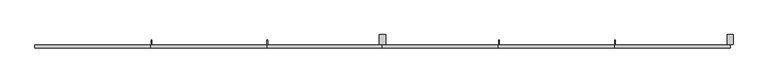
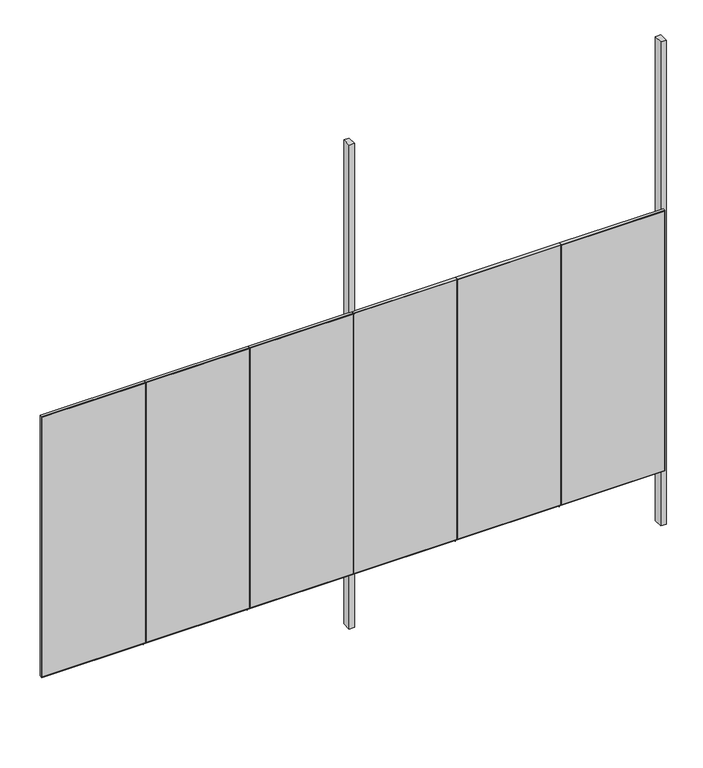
"""IFC4 building model written with IfcOpenShell, lengths in millimetres: furniture geometry, H105 Reja 6 módulos : H105.2 Reja 6 módulos 690x315 CANCHA."""

from ifc_helpers import new_model, si_unit, frame, origin, place, context, project, spatial, polyline, outline, extrude, source, transform, mapped, element, save


def furniture_af94d752(model_context):
    return source(origin(), model_context, "Body", "SweptSolid", [
        extrude(outline(polyline([(4674.7003264, -468.0), (4674.7003264, -568.0), (4614.7003264, -568.0), (4614.7003264, -468.0), (4674.7003264, -468.0)])), frame((0.0, 0.0, -600.0), z_axis=(0.0, 0.0, 1.0), x_axis=(1.0, 0.0, 0.0)), (0.0, 0.0, 1.0), 5660.0),
        extrude(outline(polyline([(1224.7003264, -468.0), (1224.7003264, -568.0), (1164.7003264, -568.0), (1164.7003264, -468.0), (1224.7003264, -468.0)])), frame((0.0, 0.0, -600.0), z_axis=(0.0, 0.0, 1.0), x_axis=(1.0, 0.0, 0.0)), (0.0, 0.0, 1.0), 5660.0),
        extrude(outline(polyline([(3100.0, 3494.7003264), (3100.0, 2344.7003264), (50.0, 2344.7003264), (50.0, 3494.7003264), (3100.0, 3494.7003264)]), holes=[polyline([(3093.0, 3491.2003264), (57.0, 3491.2003264), (57.0, 2348.2003264), (3093.0, 2348.2003264), (3093.0, 3491.2003264)])]), frame((0.0, -600.0, 0.0), z_axis=(0.0, 1.0, 0.0), x_axis=(0.0, 0.0, 1.0)), (0.0, 0.0, 1.0), 32.0),
        extrude(outline(polyline([(3491.2003264, -600.0), (2348.2003264, -600.0), (2348.2003264, -597.0), (3491.2003264, -597.0), (3491.2003264, -600.0)])), frame((0.0, 0.0, 57.0), z_axis=(0.0, 0.0, 1.0), x_axis=(1.0, 0.0, 0.0)), (0.0, 0.0, 1.0), 3036.0),
        extrude(outline(polyline([(3100.0, 2344.7003264), (3100.0, 1194.7003264), (50.0, 1194.7003264), (50.0, 2344.7003264), (3100.0, 2344.7003264)]), holes=[polyline([(3093.0, 2341.2003264), (57.0, 2341.2003264), (57.0, 1198.2003264), (3093.0, 1198.2003264), (3093.0, 2341.2003264)])]), frame((0.0, -600.0, 0.0), z_axis=(0.0, 1.0, 0.0), x_axis=(0.0, 0.0, 1.0)), (0.0, 0.0, 1.0), 32.0),
        extrude(outline(polyline([(2341.2003264, -600.0), (1198.2003264, -600.0), (1198.2003264, -597.0), (2341.2003264, -597.0), (2341.2003264, -600.0)])), frame((0.0, 0.0, 57.0), z_axis=(0.0, 0.0, 1.0), x_axis=(1.0, 0.0, 0.0)), (0.0, 0.0, 1.0), 3036.0),
        extrude(outline(polyline([(3100.0, 44.7003264), (3100.0, -1105.2996736), (50.0, -1105.2996736), (50.0, 44.7003264), (3100.0, 44.7003264)]), holes=[polyline([(3093.0, 41.2003264), (57.0, 41.2003264), (57.0, -1101.7996736), (3093.0, -1101.7996736), (3093.0, 41.2003264)])]), frame((0.0, -600.0, 0.0), z_axis=(0.0, 1.0, 0.0), x_axis=(0.0, 0.0, 1.0)), (0.0, 0.0, 1.0), 32.0),
        extrude(outline(polyline([(4637.7003264, -600.0), (3498.2003264, -600.0), (3498.2003264, -597.0), (4637.7003264, -597.0), (4637.7003264, -600.0)])), frame((0.0, 0.0, 57.0), z_axis=(0.0, 0.0, 1.0), x_axis=(1.0, 0.0, 0.0)), (0.0, 0.0, 1.0), 3036.0),
        extrude(outline(polyline([(3100.0, 4644.7003264), (3100.0, 3494.7003264), (50.0, 3494.7003264), (50.0, 4644.7003264), (3100.0, 4644.7003264)]), holes=[polyline([(3093.0, 4637.7003264), (57.0, 4637.7003264), (57.0, 3498.2003264), (3093.0, 3498.2003264), (3093.0, 4637.7003264)])]), frame((0.0, -600.0, 0.0), z_axis=(0.0, 1.0, 0.0), x_axis=(0.0, 0.0, 1.0)), (0.0, 0.0, 1.0), 32.0),
        extrude(outline(polyline([(1191.2003264, -600.0), (48.2003264, -600.0), (48.2003264, -597.0), (1191.2003264, -597.0), (1191.2003264, -600.0)])), frame((0.0, 0.0, 57.0), z_axis=(0.0, 0.0, 1.0), x_axis=(1.0, 0.0, 0.0)), (0.0, 0.0, 1.0), 3036.0),
        extrude(outline(polyline([(3100.0, 1194.7003264), (3100.0, 44.7003264), (50.0, 44.7003264), (50.0, 1194.7003264), (3100.0, 1194.7003264)]), holes=[polyline([(3093.0, 1191.2003264), (57.0, 1191.2003264), (57.0, 48.2003264), (3093.0, 48.2003264), (3093.0, 1191.2003264)])]), frame((0.0, -600.0, 0.0), z_axis=(0.0, 1.0, 0.0), x_axis=(0.0, 0.0, 1.0)), (0.0, 0.0, 1.0), 32.0),
        extrude(outline(polyline([(41.2003264, -600.0), (-1101.7996736, -600.0), (-1101.7996736, -597.0), (41.2003264, -597.0), (41.2003264, -600.0)])), frame((0.0, 0.0, 57.0), z_axis=(0.0, 0.0, 1.0), x_axis=(1.0, 0.0, 0.0)), (0.0, 0.0, 1.0), 3036.0),
        extrude(outline(polyline([(-1108.7996736, -600.0), (-2248.2996736, -600.0), (-2248.2996736, -597.0), (-1108.7996736, -597.0), (-1108.7996736, -600.0)])), frame((0.0, 0.0, 57.0), z_axis=(0.0, 0.0, 1.0), x_axis=(1.0, 0.0, 0.0)), (0.0, 0.0, 1.0), 3036.0),
        extrude(outline(polyline([(3100.0, -1105.2996736), (3100.0, -2255.2996736), (50.0, -2255.2996736), (50.0, -1105.2996736), (3100.0, -1105.2996736)]), holes=[polyline([(3093.0, -1108.7996736), (57.0, -1108.7996736), (57.0, -2248.2996736), (3093.0, -2248.2996736), (3093.0, -1108.7996736)])]), frame((0.0, -600.0, 0.0), z_axis=(0.0, 1.0, 0.0), x_axis=(0.0, 0.0, 1.0)), (0.0, 0.0, 1.0), 32.0),
        extrude(outline(polyline([(-522.0, 82.0), (-522.0, 0.0), (-547.0, 0.0), (-547.0, 57.0), (-597.0, 57.0), (-597.0, 82.0), (-522.0, 82.0)])), frame((2348.2003264, 0.0, 0.0), z_axis=(1.0, 0.0, 0.0), x_axis=(0.0, 1.0, 0.0)), (0.0, 0.0, 1.0), 7.0),
        extrude(outline(polyline([(-522.0, 82.0), (-522.0, 0.0), (-547.0, 0.0), (-547.0, 57.0), (-597.0, 57.0), (-597.0, 82.0), (-522.0, 82.0)])), frame((3498.2003264, 0.0, 0.0), z_axis=(1.0, 0.0, 0.0), x_axis=(0.0, 1.0, 0.0)), (0.0, 0.0, 1.0), 7.0),
        extrude(outline(polyline([(-522.0, 82.0), (-522.0, 0.0), (-547.0, 0.0), (-547.0, 57.0), (-597.0, 57.0), (-597.0, 82.0), (-522.0, 82.0)])), frame((-1101.7996736, 0.0, 0.0), z_axis=(1.0, 0.0, 0.0), x_axis=(0.0, 1.0, 0.0)), (0.0, 0.0, 1.0), 7.0),
        extrude(outline(polyline([(-522.0, 82.0), (-522.0, 0.0), (-547.0, 0.0), (-547.0, 57.0), (-597.0, 57.0), (-597.0, 82.0), (-522.0, 82.0)])), frame((48.2003264, 0.0, 0.0), z_axis=(1.0, 0.0, 0.0), x_axis=(0.0, 1.0, 0.0)), (0.0, 0.0, 1.0), 7.0),
    ])


if __name__ == "__main__":
    model = new_model("IFC4")
    model_context = context("Model", 3, world=origin())
    ifc_project = project(units=[si_unit("LENGTHUNIT", "METRE", prefix="MILLI")], contexts=[model_context])
    site = spatial("IfcSite", under=ifc_project)
    building = spatial("IfcBuilding", under=site)
    placement = place(None, origin())
    furniture_shape = furniture_af94d752(model_context)
    element("IfcFurniture", 1, ObjectType="H105 Reja 6 módulos : H105.2 Reja 6 módulos 690x315 CANCHA", at=placement, inside=building, context=model_context, shape_type="MappedRepresentation", body=[
        mapped(furniture_shape, transform((0.0, 0.0, 0.0), x_axis=(1.0, 0.0, 0.0), y_axis=(0.0, 1.0, 0.0), z_axis=(0.0, 0.0, 1.0))),
    ])
    save(model, "model.ifc")
